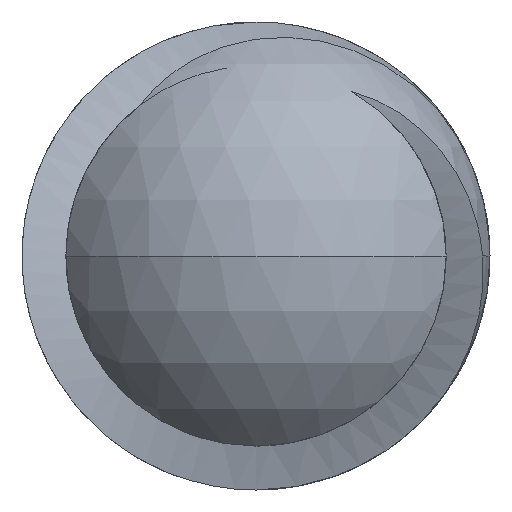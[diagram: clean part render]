
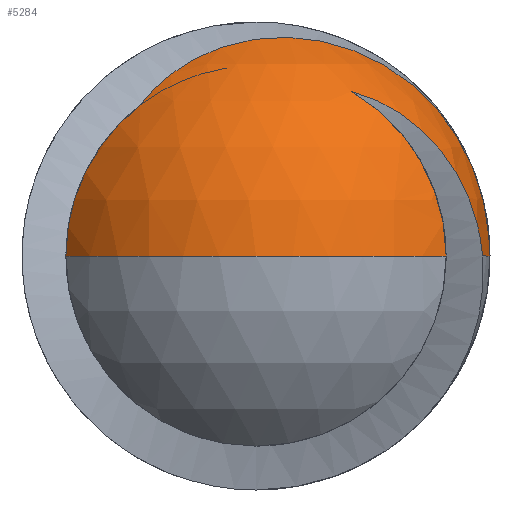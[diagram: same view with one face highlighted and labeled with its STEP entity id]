
A CAD part, left-side view. The second image highlights one B-rep face of the part: STEP entity #5284.
In plain terms, the highlighted spherical face has radius 8 mm.
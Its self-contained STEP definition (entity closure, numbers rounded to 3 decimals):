
#115 = EDGE_CURVE ( 'NONE', #7938, #347, #5039, .T. ) ;
#119 = CARTESIAN_POINT ( 'NONE',  ( 3.336, 0., 0. ) ) ;
#121 = CARTESIAN_POINT ( 'NONE',  ( 4.82, -6.574, 3.284 ) ) ;
#181 = DIRECTION ( 'NONE',  ( 0., 0., -1. ) ) ;
#347 = VERTEX_POINT ( 'NONE', #6175 ) ;
#413 = CARTESIAN_POINT ( 'NONE',  ( 4.176, 2.236, 6.669 ) ) ;
#426 = CARTESIAN_POINT ( 'NONE',  ( 8., -8., 0. ) ) ;
#437 = EDGE_CURVE ( 'NONE', #7338, #5401, #7014, .T. ) ;
#462 = DIRECTION ( 'NONE',  ( 0., 1., 0. ) ) ;
#491 = CARTESIAN_POINT ( 'NONE',  ( 3.761, 3.179, 6.002 ) ) ;
#528 = CARTESIAN_POINT ( 'NONE',  ( 3.336, 6.5, 0. ) ) ;
#541 = AXIS2_PLACEMENT_3D ( 'NONE', #3905, #5204, #6624 ) ;
#651 = DIRECTION ( 'NONE',  ( -1., 0., 0. ) ) ;
#692 = CARTESIAN_POINT ( 'NONE',  ( 4.489, -5.963, 4.028 ) ) ;
#721 = VERTEX_POINT ( 'NONE', #2784 ) ;
#777 = ORIENTED_EDGE ( 'NONE', *, *, #1131, .F. ) ;
#800 = CARTESIAN_POINT ( 'NONE',  ( 8., 0., 0. ) ) ;
#826 = DIRECTION ( 'NONE',  ( 0., 1., 0. ) ) ;
#1016 = EDGE_CURVE ( 'NONE', #5401, #721, #3616, .T. ) ;
#1064 = B_SPLINE_CURVE_WITH_KNOTS ( 'NONE', 3,
 ( #2511, #6291, #5114, #4447, #5027, #4477, #2569, #692, #5083, #121, #1280, #1332, #1969, #6345, #6901, #2594 ),
 .UNSPECIFIED., .F., .F.,
 ( 4, 2, 2, 2, 2, 2, 2, 4 ),
 ( 0.006, 0.007, 0.008, 0.009, 0.01, 0.011, 0.012, 0.014 ),
 .UNSPECIFIED. ) ;
#1106 = CARTESIAN_POINT ( 'NONE',  ( 4.378, 1.725, 6.928 ) ) ;
#1131 = EDGE_CURVE ( 'NONE', #7338, #7353, #6559, .T. ) ;
#1267 = CARTESIAN_POINT ( 'NONE',  ( 8., 0., 0. ) ) ;
#1275 = EDGE_CURVE ( 'NONE', #2410, #7353, #1064, .T. ) ;
#1280 = CARTESIAN_POINT ( 'NONE',  ( 4.929, -6.751, 3.018 ) ) ;
#1328 = EDGE_CURVE ( 'NONE', #721, #7449, #3992, .T. ) ;
#1332 = CARTESIAN_POINT ( 'NONE',  ( 5.147, -7.065, 2.462 ) ) ;
#1587 = CARTESIAN_POINT ( 'NONE',  ( 8., -7.392, 3.06 ) ) ;
#1614 = CARTESIAN_POINT ( 'NONE',  ( 7.812, -7.167, 3.602 ) ) ;
#1712 = CARTESIAN_POINT ( 'NONE',  ( 3.868, 2.954, 6.188 ) ) ;
#1954 = SPHERICAL_SURFACE ( 'NONE', #4801, 8. ) ;
#1967 = DIRECTION ( 'NONE',  ( -1., 0., 0. ) ) ;
#1969 = CARTESIAN_POINT ( 'NONE',  ( 5.257, -7.203, 2.169 ) ) ;
#2175 = ORIENTED_EDGE ( 'NONE', *, *, #1275, .T. ) ;
#2314 = CARTESIAN_POINT ( 'NONE',  ( 8., 0., 0. ) ) ;
#2330 = CARTESIAN_POINT ( 'NONE',  ( 6., -7.746, 0. ) ) ;
#2410 = VERTEX_POINT ( 'NONE', #5627 ) ;
#2511 = CARTESIAN_POINT ( 'NONE',  ( 3.336, -3.257, 5.625 ) ) ;
#2569 = CARTESIAN_POINT ( 'NONE',  ( 4.264, -5.497, 4.465 ) ) ;
#2594 = CARTESIAN_POINT ( 'NONE',  ( 6., -7.746, 0. ) ) ;
#2706 = ORIENTED_EDGE ( 'NONE', *, *, #1016, .T. ) ;
#2766 = EDGE_CURVE ( 'NONE', #7449, #347, #7333, .T. ) ;
#2784 = CARTESIAN_POINT ( 'NONE',  ( 3.336, 3.949, 5.163 ) ) ;
#2803 = CARTESIAN_POINT ( 'NONE',  ( 7.261, -6.195, 5.044 ) ) ;
#2834 = CARTESIAN_POINT ( 'NONE',  ( 6.701, -4.89, 6.205 ) ) ;
#2863 = CARTESIAN_POINT ( 'NONE',  ( 5.27, -0.798, 7.484 ) ) ;
#3423 = ORIENTED_EDGE ( 'NONE', *, *, #437, .T. ) ;
#3440 = CARTESIAN_POINT ( 'NONE',  ( 8., -7.392, 3.06 ) ) ;
#3454 = CARTESIAN_POINT ( 'NONE',  ( 5.076, -0.223, 7.449 ) ) ;
#3480 = CARTESIAN_POINT ( 'NONE',  ( 4.782, 0.63, 7.304 ) ) ;
#3539 = FACE_OUTER_BOUND ( 'NONE', #5544, .T. ) ;
#3615 = CARTESIAN_POINT ( 'NONE',  ( 3.55, 3.59, 5.604 ) ) ;
#3616 = B_SPLINE_CURVE_WITH_KNOTS ( 'NONE', 3,
 ( #1587, #1614, #6570, #2803, #5952, #7813, #2834, #4059, #4698, #5328, #6602, #5985, #7229, #6630, #2863, #3454, #7255, #3480, #7900, #4118, #1106, #413, #5485, #1712, #491, #3615, #4814, #6756 ),
 .UNSPECIFIED., .F., .F.,
 ( 4, 2, 2, 2, 2, 2, 2, 2, 2, 2, 2, 2, 2, 4 ),
 ( 0., 0.002, 0.004, 0.005, 0.005, 0.007, 0.008, 0.009, 0.01, 0.011, 0.012, 0.013, 0.014, 0.015 ),
 .UNSPECIFIED. ) ;
#3905 = CARTESIAN_POINT ( 'NONE',  ( 3.336, 0., 0. ) ) ;
#3992 = CIRCLE ( 'NONE', #541, 6.5 ) ;
#4045 = DIRECTION ( 'NONE',  ( 0., 0., -1. ) ) ;
#4059 = CARTESIAN_POINT ( 'NONE',  ( 6.514, -4.403, 6.519 ) ) ;
#4071 = AXIS2_PLACEMENT_3D ( 'NONE', #800, #5814, #826 ) ;
#4076 = ORIENTED_EDGE ( 'NONE', *, *, #2766, .T. ) ;
#4118 = CARTESIAN_POINT ( 'NONE',  ( 4.479, 1.461, 7.04 ) ) ;
#4447 = CARTESIAN_POINT ( 'NONE',  ( 3.807, -4.44, 5.178 ) ) ;
#4477 = CARTESIAN_POINT ( 'NONE',  ( 4.151, -5.249, 4.663 ) ) ;
#4698 = CARTESIAN_POINT ( 'NONE',  ( 6.419, -4.148, 6.663 ) ) ;
#4719 = ORIENTED_EDGE ( 'NONE', *, *, #7125, .T. ) ;
#4801 = AXIS2_PLACEMENT_3D ( 'NONE', #6398, #4045, #6640 ) ;
#4814 = CARTESIAN_POINT ( 'NONE',  ( 3.443, 3.778, 5.39 ) ) ;
#4876 = AXIS2_PLACEMENT_3D ( 'NONE', #7245, #7830, #5253 ) ;
#4918 = AXIS2_PLACEMENT_3D ( 'NONE', #2314, #6709, #462 ) ;
#5027 = CARTESIAN_POINT ( 'NONE',  ( 3.922, -4.722, 5.019 ) ) ;
#5039 = CIRCLE ( 'NONE', #4071, 8. ) ;
#5083 = CARTESIAN_POINT ( 'NONE',  ( 4.601, -6.181, 3.788 ) ) ;
#5114 = CARTESIAN_POINT ( 'NONE',  ( 3.574, -3.862, 5.442 ) ) ;
#5204 = DIRECTION ( 'NONE',  ( -1., 0., 0. ) ) ;
#5253 = DIRECTION ( 'NONE',  ( 1., 0., 0. ) ) ;
#5284 = ADVANCED_FACE ( 'NONE', ( #3539 ), #1954, .T. ) ;
#5328 = CARTESIAN_POINT ( 'NONE',  ( 6.132, -3.358, 7.044 ) ) ;
#5401 = VERTEX_POINT ( 'NONE', #3440 ) ;
#5485 = CARTESIAN_POINT ( 'NONE',  ( 4.075, 2.483, 6.521 ) ) ;
#5544 = EDGE_LOOP ( 'NONE', ( #777, #3423, #2706, #5566, #4076, #6847, #4719, #2175 ) ) ;
#5566 = ORIENTED_EDGE ( 'NONE', *, *, #1328, .T. ) ;
#5627 = CARTESIAN_POINT ( 'NONE',  ( 3.336, -3.257, 5.625 ) ) ;
#5671 = AXIS2_PLACEMENT_3D ( 'NONE', #119, #1967, #181 ) ;
#5814 = DIRECTION ( 'NONE',  ( 0., 0., -1. ) ) ;
#5952 = CARTESIAN_POINT ( 'NONE',  ( 7.071, -5.79, 5.476 ) ) ;
#5985 = CARTESIAN_POINT ( 'NONE',  ( 5.66, -1.958, 7.401 ) ) ;
#6175 = CARTESIAN_POINT ( 'NONE',  ( 0., 0., 0. ) ) ;
#6291 = CARTESIAN_POINT ( 'NONE',  ( 3.456, -3.564, 5.547 ) ) ;
#6345 = CARTESIAN_POINT ( 'NONE',  ( 5.579, -7.549, 1.269 ) ) ;
#6398 = CARTESIAN_POINT ( 'NONE',  ( 8., 0., 0. ) ) ;
#6559 = CIRCLE ( 'NONE', #4918, 8. ) ;
#6570 = CARTESIAN_POINT ( 'NONE',  ( 7.631, -6.882, 4.108 ) ) ;
#6602 = CARTESIAN_POINT ( 'NONE',  ( 5.946, -2.81, 7.229 ) ) ;
#6624 = DIRECTION ( 'NONE',  ( 0., 0., -1. ) ) ;
#6630 = CARTESIAN_POINT ( 'NONE',  ( 5.367, -1.087, 7.482 ) ) ;
#6640 = DIRECTION ( 'NONE',  ( 0., 1., 0. ) ) ;
#6709 = DIRECTION ( 'NONE',  ( 0., 0., -1. ) ) ;
#6756 = CARTESIAN_POINT ( 'NONE',  ( 3.336, 3.949, 5.163 ) ) ;
#6847 = ORIENTED_EDGE ( 'NONE', *, *, #115, .F. ) ;
#6901 = CARTESIAN_POINT ( 'NONE',  ( 5.787, -7.691, 0.644 ) ) ;
#7014 = CIRCLE ( 'NONE', #7074, 8. ) ;
#7074 = AXIS2_PLACEMENT_3D ( 'NONE', #1267, #651, #7602 ) ;
#7125 = EDGE_CURVE ( 'NONE', #7938, #2410, #7956, .T. ) ;
#7229 = CARTESIAN_POINT ( 'NONE',  ( 5.563, -1.668, 7.441 ) ) ;
#7245 = CARTESIAN_POINT ( 'NONE',  ( 8., 0., 0. ) ) ;
#7255 = CARTESIAN_POINT ( 'NONE',  ( 4.98, 0.063, 7.414 ) ) ;
#7333 = CIRCLE ( 'NONE', #4876, 8. ) ;
#7338 = VERTEX_POINT ( 'NONE', #426 ) ;
#7353 = VERTEX_POINT ( 'NONE', #2330 ) ;
#7449 = VERTEX_POINT ( 'NONE', #528 ) ;
#7602 = DIRECTION ( 'NONE',  ( 0., 0., 1. ) ) ;
#7813 = CARTESIAN_POINT ( 'NONE',  ( 6.792, -5.123, 6.033 ) ) ;
#7830 = DIRECTION ( 'NONE',  ( 0., 0., 1. ) ) ;
#7900 = CARTESIAN_POINT ( 'NONE',  ( 4.681, 0.914, 7.228 ) ) ;
#7938 = VERTEX_POINT ( 'NONE', #7952 ) ;
#7952 = CARTESIAN_POINT ( 'NONE',  ( 3.336, -6.5, 0. ) ) ;
#7956 = CIRCLE ( 'NONE', #5671, 6.5 ) ;
